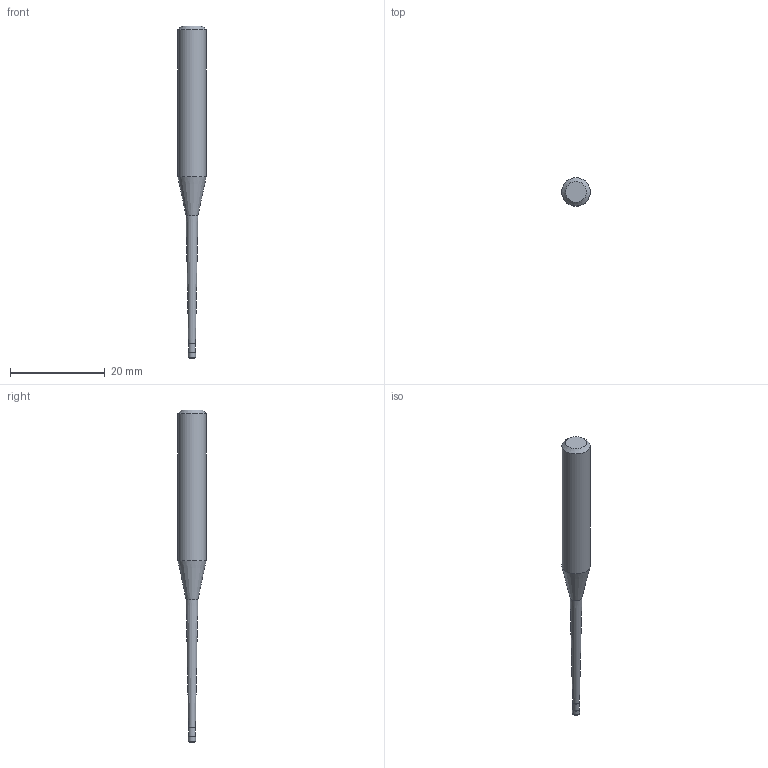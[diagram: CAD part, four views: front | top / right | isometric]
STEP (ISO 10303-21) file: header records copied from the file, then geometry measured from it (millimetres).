
FILE_DESCRIPTION((''),'2;1');
FILE_NAME('C:\Users\nsx150\AppData\Local\Temp\Mastercam 2021\YKS1SUSFZB\TEMP.step','2025-06-23T14:04:17',(''),(''),'STEP Write','Mastercam 2021 ... CNC Software, Inc.','');
FILE_SCHEMA(('AUTOMOTIVE_DESIGN'));
Length unit declared in the file: millimetre
Products named in the file (1): None
Bounding box: 6 x 6 x 70 mm (x, y, z)
Volume: 1104.4 mm3; surface area: 914.8 mm2
Topology: 2 solids, 2 shells, 11 faces, 16 edges, 9 vertices
Faces by surface type: plane 4, cylinder 3, cone 3, torus 1
Full cylindrical faces by diameter (mm): 1.44 x1, 1.5 x1, 6 x1
Entity records: 253 total; most frequent: DIRECTION 44, CARTESIAN_POINT 31, AXIS2_PLACEMENT_3D 22, ORIENTED_EDGE 18, EDGE_LOOP 18, STYLED_ITEM 14, ADVANCED_FACE 11, FACE_BOUND 11
